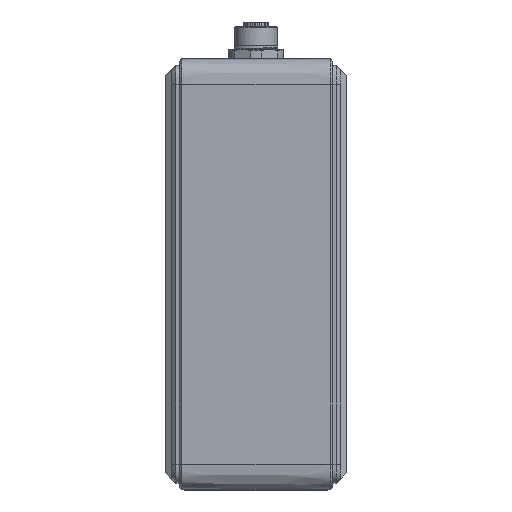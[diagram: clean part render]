
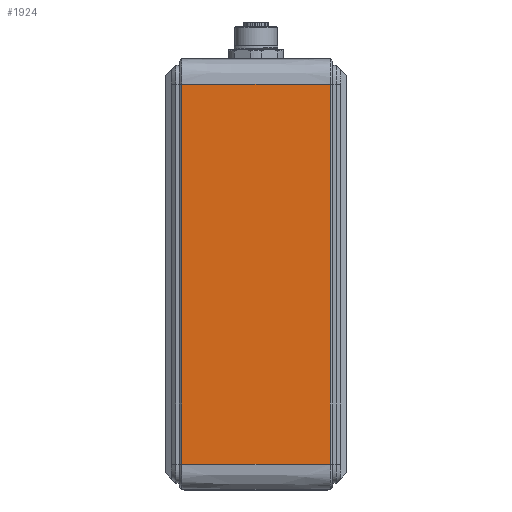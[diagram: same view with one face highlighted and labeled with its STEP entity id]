
A CAD part, left-side view. The second image highlights one B-rep face of the part: STEP entity #1924.
In plain terms, the highlighted planar face has unit normal (-1, 0, 0).
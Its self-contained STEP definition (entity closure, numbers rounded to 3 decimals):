
#1924=ADVANCED_FACE('',(#2798),#14798,.T.);
#2798=FACE_OUTER_BOUND('',#3737,.T.);
#3737=EDGE_LOOP('',(#5695,#5696,#5697,#5698));
#5695=ORIENTED_EDGE('',*,*,#9386,.F.);
#5696=ORIENTED_EDGE('',*,*,#9387,.F.);
#5697=ORIENTED_EDGE('',*,*,#9388,.F.);
#5698=ORIENTED_EDGE('',*,*,#9385,.F.);
#9385=EDGE_CURVE('',#13540,#13541,#11229,.T.);
#9386=EDGE_CURVE('',#13542,#13540,#11230,.T.);
#9387=EDGE_CURVE('',#13543,#13542,#11231,.T.);
#9388=EDGE_CURVE('',#13541,#13543,#11232,.T.);
#11229=B_SPLINE_CURVE_WITH_KNOTS('',3,(#34312,#34313,#34314,#34315),
 .UNSPECIFIED.,.F.,.F.,(4,4),(-46.4,0.),.UNSPECIFIED.);
#11230=B_SPLINE_CURVE_WITH_KNOTS('',1,(#34316,#34317),.UNSPECIFIED.,.F.,
 .F.,(2,2),(-119.,0.),.UNSPECIFIED.);
#11231=B_SPLINE_CURVE_WITH_KNOTS('',3,(#34318,#34319,#34320,#34321),
 .UNSPECIFIED.,.F.,.F.,(4,4),(-46.4,0.),.UNSPECIFIED.);
#11232=B_SPLINE_CURVE_WITH_KNOTS('',1,(#34322,#34323),.UNSPECIFIED.,.F.,
 .F.,(2,2),(-119.,0.),.UNSPECIFIED.);
#13540=VERTEX_POINT('',#29932);
#13541=VERTEX_POINT('',#29933);
#13542=VERTEX_POINT('',#29934);
#13543=VERTEX_POINT('',#29935);
#14798=PLANE('',#15420);
#15420=AXIS2_PLACEMENT_3D('',#21000,#16095,$);
#16095=DIRECTION('',(-1.,0.,0.));
#21000=CARTESIAN_POINT('',(-380.,-27.84,71.4));
#29932=CARTESIAN_POINT('',(-380.,23.2,59.5));
#29933=CARTESIAN_POINT('',(-380.,-23.2,59.5));
#29934=CARTESIAN_POINT('',(-380.,23.2,-59.5));
#29935=CARTESIAN_POINT('',(-380.,-23.2,-59.5));
#34312=CARTESIAN_POINT('',(-380.,23.2,59.5));
#34313=CARTESIAN_POINT('',(-380.,7.733,59.5));
#34314=CARTESIAN_POINT('',(-380.,-7.733,59.5));
#34315=CARTESIAN_POINT('',(-380.,-23.2,59.5));
#34316=CARTESIAN_POINT('',(-380.,23.2,-59.5));
#34317=CARTESIAN_POINT('',(-380.,23.2,59.5));
#34318=CARTESIAN_POINT('',(-380.,-23.2,-59.5));
#34319=CARTESIAN_POINT('',(-380.,-7.733,-59.5));
#34320=CARTESIAN_POINT('',(-380.,7.733,-59.5));
#34321=CARTESIAN_POINT('',(-380.,23.2,-59.5));
#34322=CARTESIAN_POINT('',(-380.,-23.2,59.5));
#34323=CARTESIAN_POINT('',(-380.,-23.2,-59.5));
